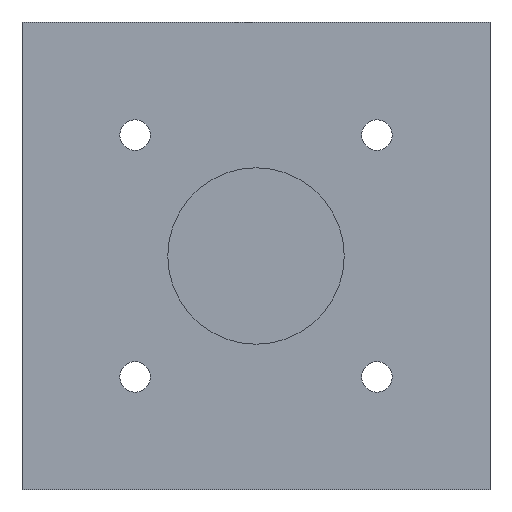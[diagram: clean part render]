
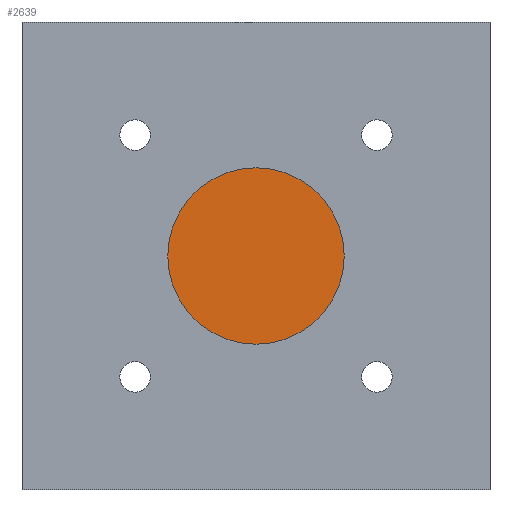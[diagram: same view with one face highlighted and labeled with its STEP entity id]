
A CAD part, front view. The second image highlights one B-rep face of the part: STEP entity #2639.
In plain terms, the highlighted planar face has unit normal (0, -1, 0).
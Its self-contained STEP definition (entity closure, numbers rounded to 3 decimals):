
#482 = CYLINDRICAL_SURFACE('',#483,9.8);
#483 = AXIS2_PLACEMENT_3D('',#484,#485,#486);
#484 = CARTESIAN_POINT('',(26.,1.9,26.));
#485 = DIRECTION('',(0.,-1.,0.));
#486 = DIRECTION('',(1.,0.,0.));
#1694 = VERTEX_POINT('',#1695);
#1695 = CARTESIAN_POINT('',(35.8,1.9,26.));
#1716 = EDGE_CURVE('',#1694,#1694,#1717,.T.);
#1717 = SURFACE_CURVE('',#1718,(#1723,#1730),.PCURVE_S1.);
#1718 = CIRCLE('',#1719,9.8);
#1719 = AXIS2_PLACEMENT_3D('',#1720,#1721,#1722);
#1720 = CARTESIAN_POINT('',(26.,1.9,26.));
#1721 = DIRECTION('',(0.,-1.,0.));
#1722 = DIRECTION('',(1.,0.,0.));
#1723 = PCURVE('',#482,#1724);
#1724 = DEFINITIONAL_REPRESENTATION('',(#1725),#1729);
#1725 = LINE('',#1726,#1727);
#1726 = CARTESIAN_POINT('',(0.,0.));
#1727 = VECTOR('',#1728,1.);
#1728 = DIRECTION('',(1.,0.));
#1729 = ( GEOMETRIC_REPRESENTATION_CONTEXT(2) 
PARAMETRIC_REPRESENTATION_CONTEXT() REPRESENTATION_CONTEXT('2D SPACE',''
  ) );
#1730 = PCURVE('',#1731,#1736);
#1731 = PLANE('',#1732);
#1732 = AXIS2_PLACEMENT_3D('',#1733,#1734,#1735);
#1733 = CARTESIAN_POINT('',(26.,1.9,26.));
#1734 = DIRECTION('',(0.,-1.,0.));
#1735 = DIRECTION('',(1.,0.,0.));
#1736 = DEFINITIONAL_REPRESENTATION('',(#1737),#1741);
#1737 = CIRCLE('',#1738,9.8);
#1738 = AXIS2_PLACEMENT_2D('',#1739,#1740);
#1739 = CARTESIAN_POINT('',(0.,0.));
#1740 = DIRECTION('',(1.,0.));
#1741 = ( GEOMETRIC_REPRESENTATION_CONTEXT(2) 
PARAMETRIC_REPRESENTATION_CONTEXT() REPRESENTATION_CONTEXT('2D SPACE',''
  ) );
#2639 = ADVANCED_FACE('',(#2640),#1731,.T.);
#2640 = FACE_BOUND('',#2641,.F.);
#2641 = EDGE_LOOP('',(#2642));
#2642 = ORIENTED_EDGE('',*,*,#1716,.F.);
